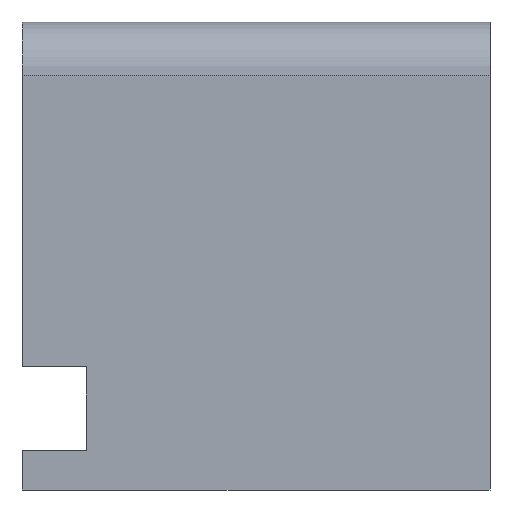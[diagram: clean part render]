
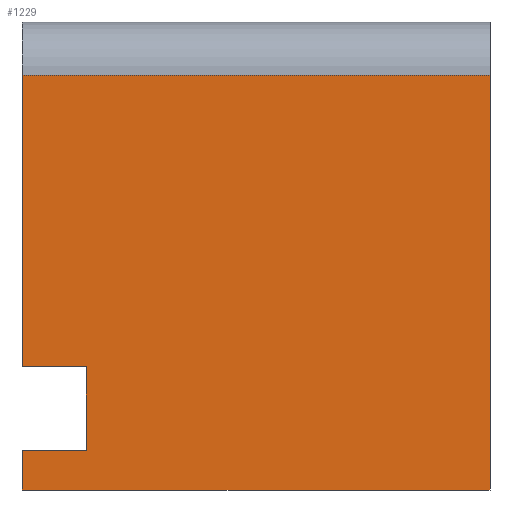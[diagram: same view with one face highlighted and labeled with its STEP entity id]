
A CAD part, left-side view. The second image highlights one B-rep face of the part: STEP entity #1229.
In plain terms, the highlighted planar face has unit normal (-1, 0, 0).
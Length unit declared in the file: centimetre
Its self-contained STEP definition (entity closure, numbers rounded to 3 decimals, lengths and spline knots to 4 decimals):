
#6 = CARTESIAN_POINT ( 'NONE',  ( 0., 1000., 263.4499 ) ) ;
#47 = CARTESIAN_POINT ( 'NONE',  ( 0., 0., 885.8865 ) ) ;
#177 = DIRECTION ( 'NONE',  ( 0., 1., 0. ) ) ;
#182 = LINE ( 'NONE', #962, #2273 ) ;
#198 = CARTESIAN_POINT ( 'NONE',  ( 0., 1000., 885.8865 ) ) ;
#310 = EDGE_CURVE ( 'NONE', #1375, #1548, #2122, .T. ) ;
#336 = VERTEX_POINT ( 'NONE', #2182 ) ;
#361 = EDGE_LOOP ( 'NONE', ( #2315, #1274, #1897, #2412, #554, #1245, #2613, #770 ) ) ;
#378 = DIRECTION ( 'NONE',  ( 0., 0., -1. ) ) ;
#380 = CARTESIAN_POINT ( 'NONE',  ( 0., 0., 1000. ) ) ;
#474 = CARTESIAN_POINT ( 'NONE',  ( 0., 0., 0. ) ) ;
#542 = CARTESIAN_POINT ( 'NONE',  ( 0., 1000., 1000. ) ) ;
#554 = ORIENTED_EDGE ( 'NONE', *, *, #2467, .F. ) ;
#566 = VECTOR ( 'NONE', #2178, 100. ) ;
#578 = CARTESIAN_POINT ( 'NONE',  ( 0., 1000., 1000. ) ) ;
#597 = LINE ( 'NONE', #2042, #2411 ) ;
#624 = CARTESIAN_POINT ( 'NONE',  ( 0., 863.0375, 263.4499 ) ) ;
#743 = DIRECTION ( 'NONE',  ( 0., 1., 0. ) ) ;
#759 = DIRECTION ( 'NONE',  ( 0., 0., -1. ) ) ;
#769 = VECTOR ( 'NONE', #759, 100. ) ;
#770 = ORIENTED_EDGE ( 'NONE', *, *, #1521, .F. ) ;
#913 = VERTEX_POINT ( 'NONE', #474 ) ;
#942 = LINE ( 'NONE', #542, #566 ) ;
#962 = CARTESIAN_POINT ( 'NONE',  ( 0., 1000., 0. ) ) ;
#1042 = VERTEX_POINT ( 'NONE', #2150 ) ;
#1049 = EDGE_CURVE ( 'NONE', #2088, #1375, #2579, .T. ) ;
#1073 = VECTOR ( 'NONE', #743, 100. ) ;
#1153 = DIRECTION ( 'NONE',  ( 0., -1., 0. ) ) ;
#1229 = ADVANCED_FACE ( 'NONE', ( #2608 ), #1599, .F. ) ;
#1245 = ORIENTED_EDGE ( 'NONE', *, *, #1049, .T. ) ;
#1274 = ORIENTED_EDGE ( 'NONE', *, *, #2013, .F. ) ;
#1375 = VERTEX_POINT ( 'NONE', #198 ) ;
#1405 = CARTESIAN_POINT ( 'NONE',  ( 0., 863.0375, 84.1847 ) ) ;
#1424 = DIRECTION ( 'NONE',  ( 0., 0., 1. ) ) ;
#1481 = EDGE_CURVE ( 'NONE', #1616, #1042, #942, .T. ) ;
#1497 = VECTOR ( 'NONE', #1939, 100. ) ;
#1521 = EDGE_CURVE ( 'NONE', #2091, #1548, #2209, .T. ) ;
#1548 = VERTEX_POINT ( 'NONE', #6 ) ;
#1560 = CARTESIAN_POINT ( 'NONE',  ( 0., 1000., 1000. ) ) ;
#1599 = PLANE ( 'NONE',  #1896 ) ;
#1616 = VERTEX_POINT ( 'NONE', #2224 ) ;
#1622 = EDGE_CURVE ( 'NONE', #336, #2091, #2046, .T. ) ;
#1856 = VECTOR ( 'NONE', #1424, 100. ) ;
#1896 = AXIS2_PLACEMENT_3D ( 'NONE', #578, #2210, #378 ) ;
#1897 = ORIENTED_EDGE ( 'NONE', *, *, #1481, .T. ) ;
#1939 = DIRECTION ( 'NONE',  ( 0., 0., -1. ) ) ;
#2007 = CARTESIAN_POINT ( 'NONE',  ( 0., 863.0375, 263.4499 ) ) ;
#2013 = EDGE_CURVE ( 'NONE', #1616, #336, #597, .T. ) ;
#2042 = CARTESIAN_POINT ( 'NONE',  ( 0., 863.0375, 84.1847 ) ) ;
#2046 = LINE ( 'NONE', #1405, #1856 ) ;
#2088 = VERTEX_POINT ( 'NONE', #47 ) ;
#2091 = VERTEX_POINT ( 'NONE', #624 ) ;
#2104 = VECTOR ( 'NONE', #177, 100. ) ;
#2122 = LINE ( 'NONE', #1560, #1497 ) ;
#2150 = CARTESIAN_POINT ( 'NONE',  ( 0., 1000., 0. ) ) ;
#2166 = LINE ( 'NONE', #380, #769 ) ;
#2178 = DIRECTION ( 'NONE',  ( 0., 0., -1. ) ) ;
#2182 = CARTESIAN_POINT ( 'NONE',  ( 0., 863.0375, 84.1847 ) ) ;
#2209 = LINE ( 'NONE', #2007, #2104 ) ;
#2210 = DIRECTION ( 'NONE',  ( 1., 0., 0. ) ) ;
#2224 = CARTESIAN_POINT ( 'NONE',  ( 0., 1000., 84.1847 ) ) ;
#2273 = VECTOR ( 'NONE', #1153, 100. ) ;
#2315 = ORIENTED_EDGE ( 'NONE', *, *, #1622, .F. ) ;
#2411 = VECTOR ( 'NONE', #2452, 100. ) ;
#2412 = ORIENTED_EDGE ( 'NONE', *, *, #2480, .T. ) ;
#2452 = DIRECTION ( 'NONE',  ( 0., -1., 0. ) ) ;
#2467 = EDGE_CURVE ( 'NONE', #2088, #913, #2166, .T. ) ;
#2480 = EDGE_CURVE ( 'NONE', #1042, #913, #182, .T. ) ;
#2546 = CARTESIAN_POINT ( 'NONE',  ( 0., 1000., 885.8865 ) ) ;
#2579 = LINE ( 'NONE', #2546, #1073 ) ;
#2608 = FACE_OUTER_BOUND ( 'NONE', #361, .T. ) ;
#2613 = ORIENTED_EDGE ( 'NONE', *, *, #310, .T. ) ;
